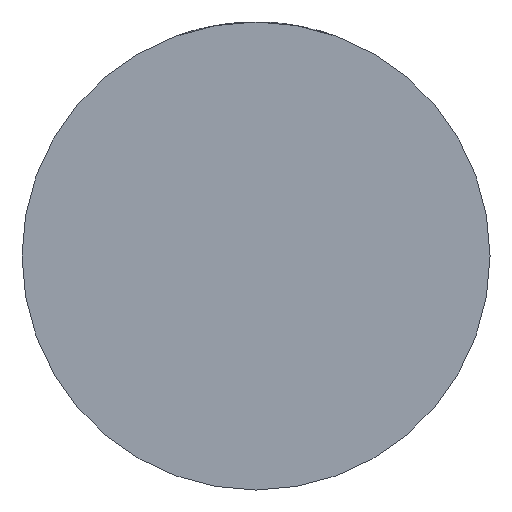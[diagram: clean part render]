
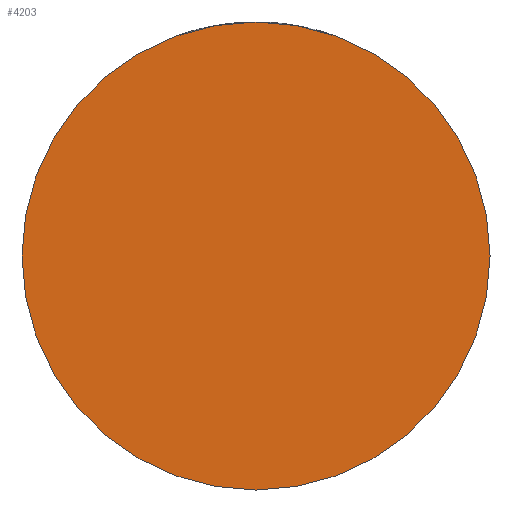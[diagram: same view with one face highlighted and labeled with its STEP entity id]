
A CAD part, front view. The second image highlights one B-rep face of the part: STEP entity #4203.
In plain terms, the highlighted planar face has unit normal (0, -1, 0).
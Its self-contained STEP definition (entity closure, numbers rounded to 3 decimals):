
#433 = CARTESIAN_POINT ( 'NONE',  ( 0., -29., 0. ) ) ;
#499 = DIRECTION ( 'NONE',  ( 0., -1., 0. ) ) ;
#616 = AXIS2_PLACEMENT_3D ( 'NONE', #1662, #3044, #3346 ) ;
#783 = CARTESIAN_POINT ( 'NONE',  ( 44., -29., 0. ) ) ;
#1451 = VERTEX_POINT ( 'NONE', #783 ) ;
#1518 = DIRECTION ( 'NONE',  ( 1., 0., 0. ) ) ;
#1595 = CARTESIAN_POINT ( 'NONE',  ( -44., -29., 0. ) ) ;
#1662 = CARTESIAN_POINT ( 'NONE',  ( 0., -29., 0. ) ) ;
#1729 = EDGE_CURVE ( 'NONE', #2187, #1451, #2175, .T. ) ;
#1872 = ORIENTED_EDGE ( 'NONE', *, *, #1729, .T. ) ;
#1880 = DIRECTION ( 'NONE',  ( 1., 0., 0. ) ) ;
#1887 = AXIS2_PLACEMENT_3D ( 'NONE', #433, #2540, #1880 ) ;
#2175 = CIRCLE ( 'NONE', #1887, 44. ) ;
#2187 = VERTEX_POINT ( 'NONE', #1595 ) ;
#2540 = DIRECTION ( 'NONE',  ( 0., -1., 0. ) ) ;
#2564 = EDGE_LOOP ( 'NONE', ( #1872, #3054 ) ) ;
#3044 = DIRECTION ( 'NONE',  ( 0., -1., 0. ) ) ;
#3054 = ORIENTED_EDGE ( 'NONE', *, *, #3061, .T. ) ;
#3056 = CIRCLE ( 'NONE', #616, 44. ) ;
#3061 = EDGE_CURVE ( 'NONE', #1451, #2187, #3056, .T. ) ;
#3346 = DIRECTION ( 'NONE',  ( 1., 0., 0. ) ) ;
#3588 = PLANE ( 'NONE',  #4011 ) ;
#3954 = CARTESIAN_POINT ( 'NONE',  ( 0., -29., 0. ) ) ;
#3997 = FACE_OUTER_BOUND ( 'NONE', #2564, .T. ) ;
#4011 = AXIS2_PLACEMENT_3D ( 'NONE', #3954, #499, #1518 ) ;
#4203 = ADVANCED_FACE ( 'NONE', ( #3997 ), #3588, .T. ) ;
